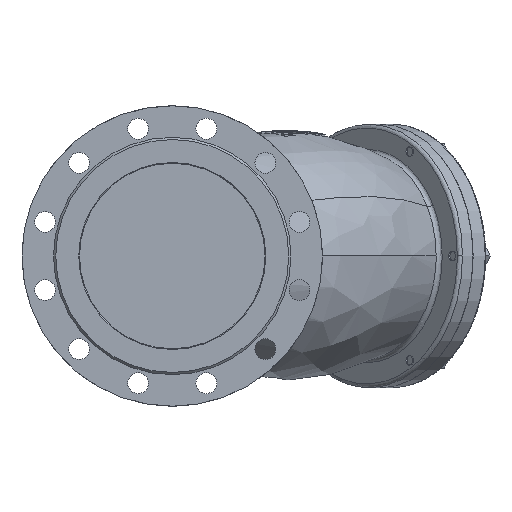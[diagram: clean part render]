
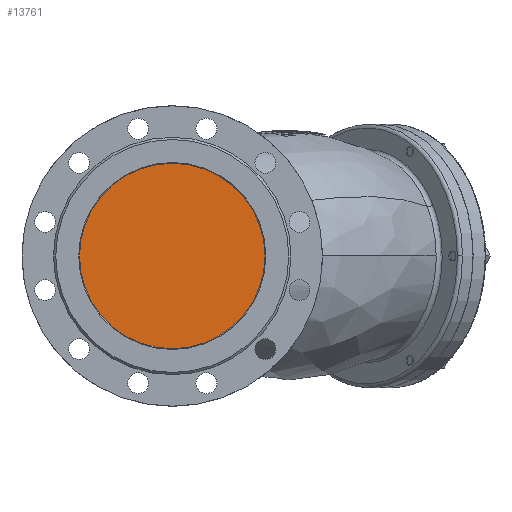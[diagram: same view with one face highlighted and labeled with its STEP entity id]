
A CAD part, left-side view. The second image highlights one B-rep face of the part: STEP entity #13761.
In plain terms, the highlighted planar face has unit normal (-1, 0, 0).
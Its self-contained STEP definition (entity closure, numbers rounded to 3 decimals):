
#426 = AXIS2_PLACEMENT_3D ( 'NONE', #20141, #35082, #24052 ) ;
#2234 = VERTEX_POINT ( 'NONE', #9351 ) ;
#4613 = ORIENTED_EDGE ( 'NONE', *, *, #41946, .T. ) ;
#6179 = EDGE_LOOP ( 'NONE', ( #4613 ) ) ;
#7200 = CIRCLE ( 'NONE', #36062, 125. ) ;
#9351 = CARTESIAN_POINT ( 'NONE',  ( 14.902, 0., -125. ) ) ;
#13761 = ADVANCED_FACE ( 'NONE', ( #16222 ), #31138, .F. ) ;
#16222 = FACE_OUTER_BOUND ( 'NONE', #6179, .T. ) ;
#18686 = DIRECTION ( 'NONE',  ( 0., 0., -1. ) ) ;
#20141 = CARTESIAN_POINT ( 'NONE',  ( 14.902, 0., 0. ) ) ;
#24052 = DIRECTION ( 'NONE',  ( 0., 0., -1. ) ) ;
#30643 = CARTESIAN_POINT ( 'NONE',  ( 14.902, 0., 0. ) ) ;
#31138 = PLANE ( 'NONE',  #426 ) ;
#35082 = DIRECTION ( 'NONE',  ( 1., 0., 0. ) ) ;
#36062 = AXIS2_PLACEMENT_3D ( 'NONE', #30643, #45609, #18686 ) ;
#41946 = EDGE_CURVE ( 'NONE', #2234, #2234, #7200, .T. ) ;
#45609 = DIRECTION ( 'NONE',  ( -1., 0., 0. ) ) ;
